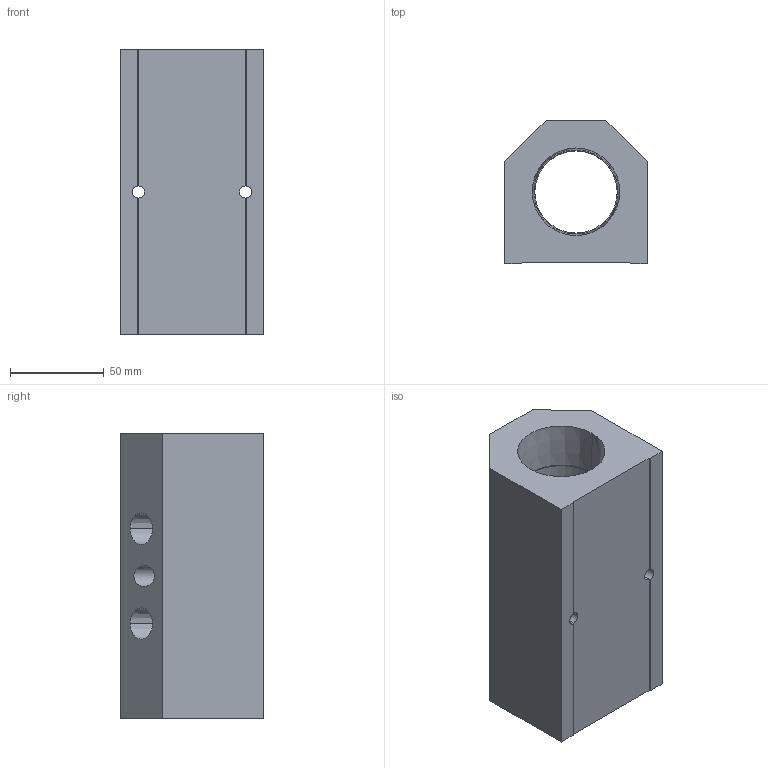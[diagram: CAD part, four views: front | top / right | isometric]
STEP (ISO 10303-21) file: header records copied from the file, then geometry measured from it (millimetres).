
FILE_DESCRIPTION (( 'STEP AP214' ), '1' );
FILE_NAME ('ALM2BCD-N6N24-152R.step', '2022-02-07T07:57:54', ( '' ), ( '' ), 'SwSTEP 2.0', 'SolidWorks 2020', '' );
FILE_SCHEMA (( 'AUTOMOTIVE_DESIGN' ));
Length unit declared in the file: millimetre
Products named in the file (1): ALM2BCD-N6N24-152R
Bounding box: 76.2 x 76.2 x 152 mm (x, y, z)
Volume: 539728.9 mm3; surface area: 76448 mm2
Topology: 1 solids, 1 shells, 305 faces, 806 edges, 536 vertices
Faces by surface type: plane 212, bspline 67, cone 16, cylinder 10
Entity records: 17249 total; most frequent: CARTESIAN_POINT 7121, ORIENTED_EDGE 1612, DIRECTION 1166, EDGE_CURVE 806, LINE 616, VECTOR 616, VERTEX_POINT 536, EDGE_LOOP 356
